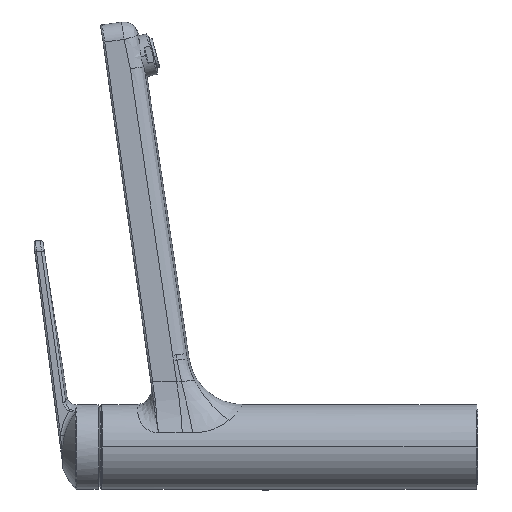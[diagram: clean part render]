
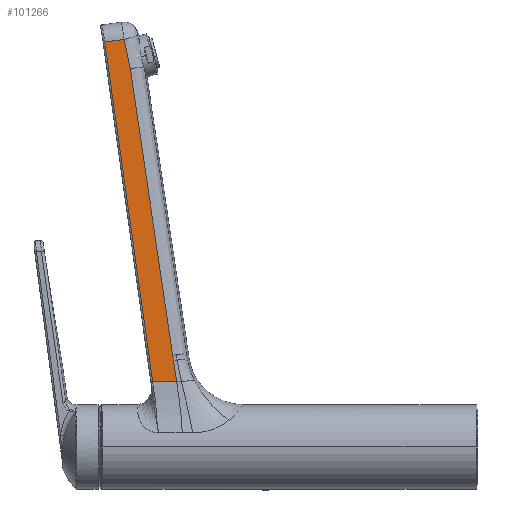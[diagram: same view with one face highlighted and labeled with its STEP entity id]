
A CAD part, left-side view. The second image highlights one B-rep face of the part: STEP entity #101266.
In plain terms, the highlighted planar face has unit normal (-1, 0, 0.007).
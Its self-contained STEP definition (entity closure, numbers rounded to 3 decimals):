
#15692=CARTESIAN_POINT('',(-17.811,116.604,
37.191));
#15702=DIRECTION('',(0.,1.,0.));
#15703=VECTOR('',#15702,13.716);
#15704=CARTESIAN_POINT('',(-17.811,102.888,
37.191));
#15705=LINE('',#15704,#15703);
#15954=CARTESIAN_POINT('',(-16.455,143.953,
231.471));
#15955=CARTESIAN_POINT('',(-16.606,140.914,
209.883));
#15956=CARTESIAN_POINT('',(-16.907,134.836,
166.707));
#15957=CARTESIAN_POINT('',(-17.359,125.72,
101.947));
#15958=CARTESIAN_POINT('',(-17.66,119.643,
58.776));
#15959=CARTESIAN_POINT('',(-17.811,116.604,
37.191));
#15961=DIRECTION('',(0.001,-0.99,0.139));
#15962=VECTOR('',#15961,11.161);
#15963=CARTESIAN_POINT('',(-16.455,143.953,
231.471));
#15964=LINE('',#15963,#15962);
#15965=CARTESIAN_POINT('',(-16.561,129.394,
216.25));
#15966=CARTESIAN_POINT('',(-16.554,129.539,
217.212));
#15967=CARTESIAN_POINT('',(-16.541,129.846,
219.128));
#15968=CARTESIAN_POINT('',(-16.521,130.357,
221.974));
#15969=CARTESIAN_POINT('',(-16.501,130.918,
224.789));
#15970=CARTESIAN_POINT('',(-16.482,131.529,
227.572));
#15971=CARTESIAN_POINT('',(-16.463,132.187,
230.32));
#15972=CARTESIAN_POINT('',(-16.45,132.657,
232.127));
#15973=CARTESIAN_POINT('',(-16.444,132.9,
233.024));
#15975=CARTESIAN_POINT('',(-17.705,105.134,
52.378));
#15976=CARTESIAN_POINT('',(-17.63,106.717,
63.089));
#15977=CARTESIAN_POINT('',(-17.482,109.858,
84.334));
#15978=CARTESIAN_POINT('',(-17.247,114.837,
117.939));
#15979=CARTESIAN_POINT('',(-17.048,119.072,
146.477));
#15980=CARTESIAN_POINT('',(-16.867,122.893,
172.371));
#15981=CARTESIAN_POINT('',(-16.705,126.326,
195.707));
#15982=CARTESIAN_POINT('',(-16.607,128.406,
209.674));
#15983=CARTESIAN_POINT('',(-16.561,129.394,
216.25));
#16026=CARTESIAN_POINT('',(-16.444,132.9,
233.024));
#16525=CARTESIAN_POINT('',(-17.811,102.888,
37.191));
#16533=CARTESIAN_POINT('',(-17.725,104.712,
49.528));
#16534=CARTESIAN_POINT('',(-17.754,104.104,
45.416));
#16535=CARTESIAN_POINT('',(-17.782,103.496,
41.303));
#16536=CARTESIAN_POINT('',(-17.811,102.888,
37.191));
#16538=CARTESIAN_POINT('',(-17.705,105.134,
52.378));
#16549=CARTESIAN_POINT('',(-17.725,104.712,
49.528));
#16555=CARTESIAN_POINT('',(-17.705,105.134,
52.378));
#16556=CARTESIAN_POINT('',(-17.712,104.993,
51.427));
#16557=CARTESIAN_POINT('',(-17.718,104.853,
50.48));
#16558=CARTESIAN_POINT('',(-17.725,104.712,
49.528));
#73263=VERTEX_POINT('',#16026);
#73265=VERTEX_POINT('',#15965);
#73276=VERTEX_POINT('',#16538);
#73294=VERTEX_POINT('',#16549);
#73295=VERTEX_POINT('',#16525);
#73305=VERTEX_POINT('',#15692);
#73307=VERTEX_POINT('',#15954);
#101247=CARTESIAN_POINT('',(-16.5,-68.8,225.));
#101248=DIRECTION('',(1.,0.,-0.007));
#101249=DIRECTION('',(-0.007,0.,-1.));
#101250=AXIS2_PLACEMENT_3D('',#101247,#101248,#101249);
#101251=PLANE('',#101250);
#101252=ORIENTED_EDGE('',*,*,#101238,.F.);
#101254=ORIENTED_EDGE('',*,*,#101253,.T.);
#101256=ORIENTED_EDGE('',*,*,#101255,.F.);
#101258=ORIENTED_EDGE('',*,*,#101257,.F.);
#101260=ORIENTED_EDGE('',*,*,#101259,.T.);
#101262=ORIENTED_EDGE('',*,*,#101261,.T.);
#101263=ORIENTED_EDGE('',*,*,#100886,.T.);
#101264=EDGE_LOOP('',(#101252,#101254,#101256,#101258,#101260,#101262,#101263));
#101265=FACE_OUTER_BOUND('',#101264,.F.);
#101266=ADVANCED_FACE('',(#101265),#101251,.F.);
#15960=B_SPLINE_CURVE_WITH_KNOTS('',3,(#15954,#15955,#15956,#15957,#15958,
#15959),.UNSPECIFIED.,.F.,.F.,(4,1,1,4),(0.,0.333,
0.667,1.),.UNSPECIFIED.);
#15974=B_SPLINE_CURVE_WITH_KNOTS('',3,(#15965,#15966,#15967,#15968,#15969,
#15970,#15971,#15972,#15973),.UNSPECIFIED.,.F.,.F.,(4,1,1,1,1,1,4),(0.,
0.167,0.333,0.5,0.667,0.833,
1.),.UNSPECIFIED.);
#15984=B_SPLINE_CURVE_WITH_KNOTS('',3,(#15975,#15976,#15977,#15978,#15979,
#15980,#15981,#15982,#15983),.UNSPECIFIED.,.F.,.F.,(4,1,1,1,1,1,4),(0.,
0.167,0.333,0.5,0.667,0.833,
1.),.UNSPECIFIED.);
#16537=B_SPLINE_CURVE_WITH_KNOTS('',3,(#16533,#16534,#16535,#16536),
.UNSPECIFIED.,.F.,.F.,(4,4),(0.,1.),.UNSPECIFIED.);
#16559=B_SPLINE_CURVE_WITH_KNOTS('',3,(#16555,#16556,#16557,#16558),
.UNSPECIFIED.,.F.,.F.,(4,4),(0.,1.),.UNSPECIFIED.);
#100886=EDGE_CURVE('',#73295,#73305,#15705,.T.);
#101238=EDGE_CURVE('',#73307,#73305,#15960,.T.);
#101253=EDGE_CURVE('',#73307,#73263,#15964,.T.);
#101255=EDGE_CURVE('',#73265,#73263,#15974,.T.);
#101257=EDGE_CURVE('',#73276,#73265,#15984,.T.);
#101259=EDGE_CURVE('',#73276,#73294,#16559,.T.);
#101261=EDGE_CURVE('',#73294,#73295,#16537,.T.);
